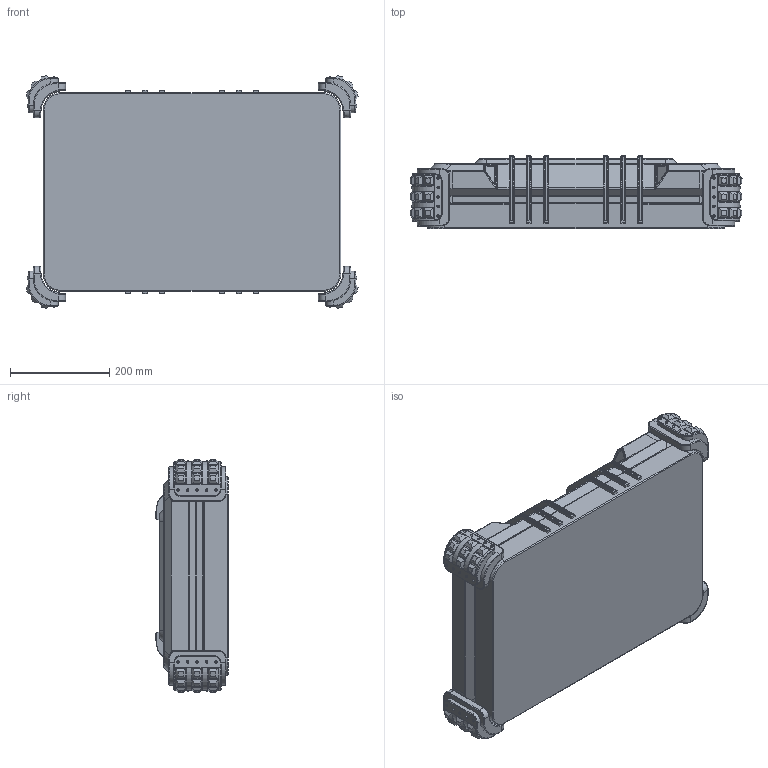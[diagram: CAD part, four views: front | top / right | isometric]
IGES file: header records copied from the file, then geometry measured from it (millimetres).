
Global section: file name: abject sifi 4 v7 (2); native system: unknown; preprocessor: unknown; author: unknown; organization: unknown; date: 20220627.134833; units: centimetre
Bounding box: 669.36 x 147 x 469.25 mm (x, y, z)
Volume: 31625399.2 mm3; surface area: 1003988.5 mm2
Topology: 5 solids, 5 shells, 3769 faces, 9114 edges, 5564 vertices
Faces by surface type: bspline 3769
